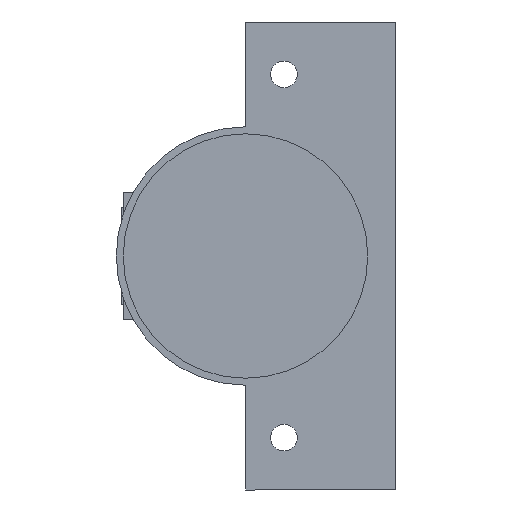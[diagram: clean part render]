
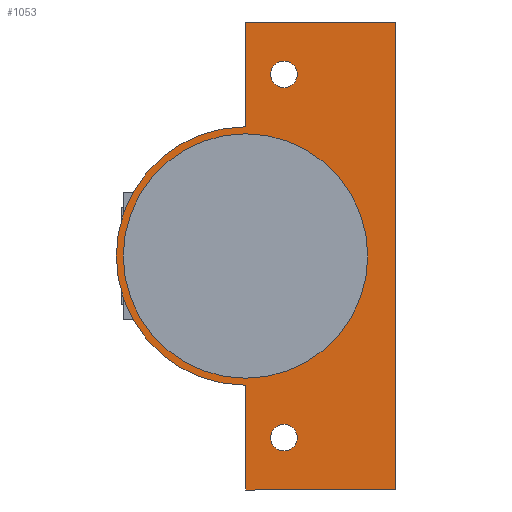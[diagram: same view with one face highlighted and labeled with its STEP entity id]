
A CAD part, front view. The second image highlights one B-rep face of the part: STEP entity #1053.
In plain terms, the highlighted planar face has unit normal (0, -1, 0).
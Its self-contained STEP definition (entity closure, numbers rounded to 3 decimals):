
#7 = FACE_BOUND ( 'NONE', #443, .T. ) ;
#14 = EDGE_LOOP ( 'NONE', ( #689, #1396 ) ) ;
#23 = LINE ( 'NONE', #356, #1160 ) ;
#32 = VECTOR ( 'NONE', #614, 1000. ) ;
#83 = CARTESIAN_POINT ( 'NONE',  ( 21.5, -38.5, 0. ) ) ;
#87 = DIRECTION ( 'NONE',  ( -1., 0., 0. ) ) ;
#111 = CIRCLE ( 'NONE', #559, 17.5 ) ;
#113 = CIRCLE ( 'NONE', #1366, 1.9 ) ;
#115 = EDGE_LOOP ( 'NONE', ( #1554, #748 ) ) ;
#117 = ORIENTED_EDGE ( 'NONE', *, *, #1405, .F. ) ;
#129 = CIRCLE ( 'NONE', #895, 18.5 ) ;
#165 = EDGE_CURVE ( 'NONE', #1215, #961, #1317, .T. ) ;
#173 = DIRECTION ( 'NONE',  ( -1., 0., 0. ) ) ;
#209 = DIRECTION ( 'NONE',  ( 0., -1., 0. ) ) ;
#220 = LINE ( 'NONE', #597, #511 ) ;
#222 = VERTEX_POINT ( 'NONE', #948 ) ;
#239 = CARTESIAN_POINT ( 'NONE',  ( 21.5, -38.5, 18.5 ) ) ;
#241 = CARTESIAN_POINT ( 'NONE',  ( 21.5, -38.5, 0. ) ) ;
#251 = DIRECTION ( 'NONE',  ( 0., 0., -1. ) ) ;
#279 = CARTESIAN_POINT ( 'NONE',  ( 27., -38.5, 26. ) ) ;
#299 = CARTESIAN_POINT ( 'NONE',  ( 21.5, -38.5, 18.5 ) ) ;
#302 = EDGE_LOOP ( 'NONE', ( #117, #888, #652, #1378, #455, #459 ) ) ;
#318 = VERTEX_POINT ( 'NONE', #1564 ) ;
#330 = CARTESIAN_POINT ( 'NONE',  ( 4., -38.5, 0. ) ) ;
#356 = CARTESIAN_POINT ( 'NONE',  ( 43., -38.5, 33.5 ) ) ;
#358 = FACE_OUTER_BOUND ( 'NONE', #302, .T. ) ;
#360 = DIRECTION ( 'NONE',  ( 0., 1., 0. ) ) ;
#365 = DIRECTION ( 'NONE',  ( -1., 0., 0. ) ) ;
#367 = CARTESIAN_POINT ( 'NONE',  ( 21.5, -38.5, 0. ) ) ;
#377 = AXIS2_PLACEMENT_3D ( 'NONE', #697, #1548, #1167 ) ;
#380 = LINE ( 'NONE', #239, #32 ) ;
#401 = VERTEX_POINT ( 'NONE', #1139 ) ;
#417 = VERTEX_POINT ( 'NONE', #1406 ) ;
#423 = DIRECTION ( 'NONE',  ( -1., 0., 0. ) ) ;
#440 = CARTESIAN_POINT ( 'NONE',  ( 43., -38.5, -33.5 ) ) ;
#443 = EDGE_LOOP ( 'NONE', ( #1613, #1399 ) ) ;
#452 = DIRECTION ( 'NONE',  ( -1., 0., 0. ) ) ;
#455 = ORIENTED_EDGE ( 'NONE', *, *, #967, .F. ) ;
#457 = EDGE_CURVE ( 'NONE', #1553, #1013, #220, .T. ) ;
#459 = ORIENTED_EDGE ( 'NONE', *, *, #662, .F. ) ;
#468 = DIRECTION ( 'NONE',  ( 0., 1., 0. ) ) ;
#471 = CARTESIAN_POINT ( 'NONE',  ( 21.5, -38.5, 33.5 ) ) ;
#487 = CARTESIAN_POINT ( 'NONE',  ( 27., -38.5, -26. ) ) ;
#509 = EDGE_CURVE ( 'NONE', #961, #1215, #923, .T. ) ;
#511 = VECTOR ( 'NONE', #601, 1000. ) ;
#532 = AXIS2_PLACEMENT_3D ( 'NONE', #578, #468, #87 ) ;
#551 = EDGE_CURVE ( 'NONE', #1328, #1553, #380, .T. ) ;
#559 = AXIS2_PLACEMENT_3D ( 'NONE', #83, #209, #452 ) ;
#578 = CARTESIAN_POINT ( 'NONE',  ( 27., -38.5, 26. ) ) ;
#597 = CARTESIAN_POINT ( 'NONE',  ( 21.5, -38.5, 33.5 ) ) ;
#601 = DIRECTION ( 'NONE',  ( 1., 0., 0. ) ) ;
#609 = DIRECTION ( 'NONE',  ( 0., 1., 0. ) ) ;
#614 = DIRECTION ( 'NONE',  ( 0., 0., 1. ) ) ;
#652 = ORIENTED_EDGE ( 'NONE', *, *, #457, .F. ) ;
#662 = EDGE_CURVE ( 'NONE', #1364, #318, #1394, .T. ) ;
#689 = ORIENTED_EDGE ( 'NONE', *, *, #786, .T. ) ;
#697 = CARTESIAN_POINT ( 'NONE',  ( 27., -38.5, -26. ) ) ;
#723 = CIRCLE ( 'NONE', #532, 1.9 ) ;
#734 = DIRECTION ( 'NONE',  ( -1., 0., 0. ) ) ;
#738 = DIRECTION ( 'NONE',  ( 0., 1., 0. ) ) ;
#748 = ORIENTED_EDGE ( 'NONE', *, *, #509, .T. ) ;
#756 = AXIS2_PLACEMENT_3D ( 'NONE', #1095, #360, #1377 ) ;
#786 = EDGE_CURVE ( 'NONE', #222, #401, #113, .T. ) ;
#799 = FACE_BOUND ( 'NONE', #14, .T. ) ;
#859 = FACE_BOUND ( 'NONE', #115, .T. ) ;
#881 = DIRECTION ( 'NONE',  ( 0., 0., 1. ) ) ;
#888 = ORIENTED_EDGE ( 'NONE', *, *, #1588, .F. ) ;
#895 = AXIS2_PLACEMENT_3D ( 'NONE', #241, #609, #1350 ) ;
#923 = CIRCLE ( 'NONE', #933, 1.9 ) ;
#931 = EDGE_CURVE ( 'NONE', #1403, #1502, #1603, .T. ) ;
#933 = AXIS2_PLACEMENT_3D ( 'NONE', #487, #738, #365 ) ;
#948 = CARTESIAN_POINT ( 'NONE',  ( 25.1, -38.5, 26. ) ) ;
#953 = LINE ( 'NONE', #440, #1446 ) ;
#961 = VERTEX_POINT ( 'NONE', #1586 ) ;
#967 = EDGE_CURVE ( 'NONE', #318, #1328, #129, .T. ) ;
#971 = CARTESIAN_POINT ( 'NONE',  ( 43., -38.5, 33.5 ) ) ;
#1013 = VERTEX_POINT ( 'NONE', #971 ) ;
#1041 = CARTESIAN_POINT ( 'NONE',  ( 21.5, -38.5, -33.5 ) ) ;
#1053 = ADVANCED_FACE ( 'NONE', ( #859, #799, #358, #7 ), #1577, .F. ) ;
#1095 = CARTESIAN_POINT ( 'NONE',  ( 21.5, -38.5, 0. ) ) ;
#1139 = CARTESIAN_POINT ( 'NONE',  ( 28.9, -38.5, 26. ) ) ;
#1160 = VECTOR ( 'NONE', #251, 1000. ) ;
#1167 = DIRECTION ( 'NONE',  ( -1., 0., 0. ) ) ;
#1184 = VECTOR ( 'NONE', #881, 1000. ) ;
#1215 = VERTEX_POINT ( 'NONE', #1400 ) ;
#1227 = DIRECTION ( 'NONE',  ( 0., -1., 0. ) ) ;
#1256 = CARTESIAN_POINT ( 'NONE',  ( 21.5, -38.5, -33.5 ) ) ;
#1270 = DIRECTION ( 'NONE',  ( 0., 1., 0. ) ) ;
#1317 = CIRCLE ( 'NONE', #377, 1.9 ) ;
#1328 = VERTEX_POINT ( 'NONE', #299 ) ;
#1350 = DIRECTION ( 'NONE',  ( -1., 0., 0. ) ) ;
#1364 = VERTEX_POINT ( 'NONE', #1041 ) ;
#1366 = AXIS2_PLACEMENT_3D ( 'NONE', #279, #1270, #423 ) ;
#1377 = DIRECTION ( 'NONE',  ( -1., 0., 0. ) ) ;
#1378 = ORIENTED_EDGE ( 'NONE', *, *, #551, .F. ) ;
#1394 = LINE ( 'NONE', #1256, #1184 ) ;
#1396 = ORIENTED_EDGE ( 'NONE', *, *, #1505, .T. ) ;
#1399 = ORIENTED_EDGE ( 'NONE', *, *, #931, .F. ) ;
#1400 = CARTESIAN_POINT ( 'NONE',  ( 25.1, -38.5, -26. ) ) ;
#1403 = VERTEX_POINT ( 'NONE', #1542 ) ;
#1405 = EDGE_CURVE ( 'NONE', #417, #1364, #953, .T. ) ;
#1406 = CARTESIAN_POINT ( 'NONE',  ( 43., -38.5, -33.5 ) ) ;
#1441 = EDGE_CURVE ( 'NONE', #1502, #1403, #111, .T. ) ;
#1446 = VECTOR ( 'NONE', #173, 1000. ) ;
#1502 = VERTEX_POINT ( 'NONE', #330 ) ;
#1503 = AXIS2_PLACEMENT_3D ( 'NONE', #367, #1227, #734 ) ;
#1505 = EDGE_CURVE ( 'NONE', #401, #222, #723, .T. ) ;
#1542 = CARTESIAN_POINT ( 'NONE',  ( 39., -38.5, 0. ) ) ;
#1548 = DIRECTION ( 'NONE',  ( 0., 1., 0. ) ) ;
#1553 = VERTEX_POINT ( 'NONE', #471 ) ;
#1554 = ORIENTED_EDGE ( 'NONE', *, *, #165, .T. ) ;
#1564 = CARTESIAN_POINT ( 'NONE',  ( 21.5, -38.5, -18.5 ) ) ;
#1577 = PLANE ( 'NONE',  #756 ) ;
#1586 = CARTESIAN_POINT ( 'NONE',  ( 28.9, -38.5, -26. ) ) ;
#1588 = EDGE_CURVE ( 'NONE', #1013, #417, #23, .T. ) ;
#1603 = CIRCLE ( 'NONE', #1503, 17.5 ) ;
#1613 = ORIENTED_EDGE ( 'NONE', *, *, #1441, .F. ) ;
